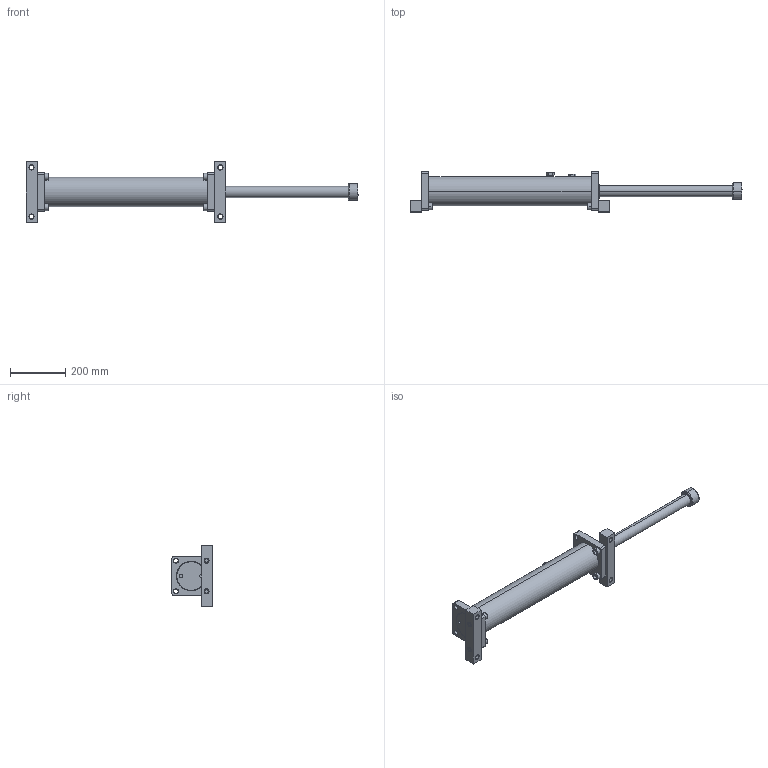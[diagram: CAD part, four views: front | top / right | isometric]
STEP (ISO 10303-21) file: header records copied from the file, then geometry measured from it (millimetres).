
FILE_DESCRIPTION (( 'STEP AP214' ), '1' );
FILE_NAME ('LDD2.0X18.STEP', '2019-01-16T06:12:14', ( 'user' ), ( 'Microsoft' ), 'SwSTEP 2.0', 'SolidWorks 2016', '' );
FILE_SCHEMA (( 'AUTOMOTIVE_DESIGN' ));
Length unit declared in the file: inch
Products named in the file (1): LDD2.0X18
Bounding box: 1204 x 145.5 x 220 mm (x, y, z)
Surface area: 494211.8 mm2 (no closed solid volume)
Topology: 0 solids, 25 shells, 261 faces, 696 edges, 467 vertices
Faces by surface type: plane 98, cylinder 74, cone 59, bspline 30
Entity records: 14096 total; most frequent: CARTESIAN_POINT 7686, DIRECTION 1334, ORIENTED_EDGE 1225, EDGE_CURVE 696, AXIS2_PLACEMENT_3D 515, VERTEX_POINT 467, EDGE_LOOP 320, LINE 304
